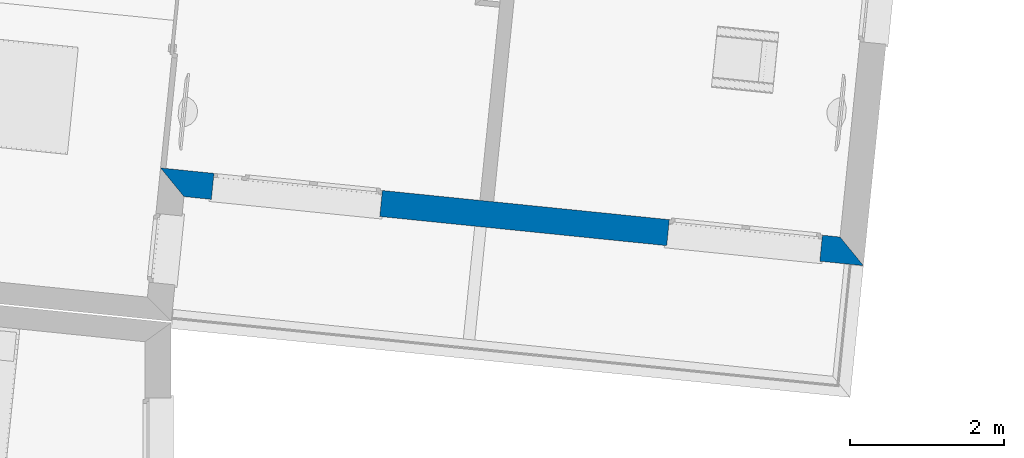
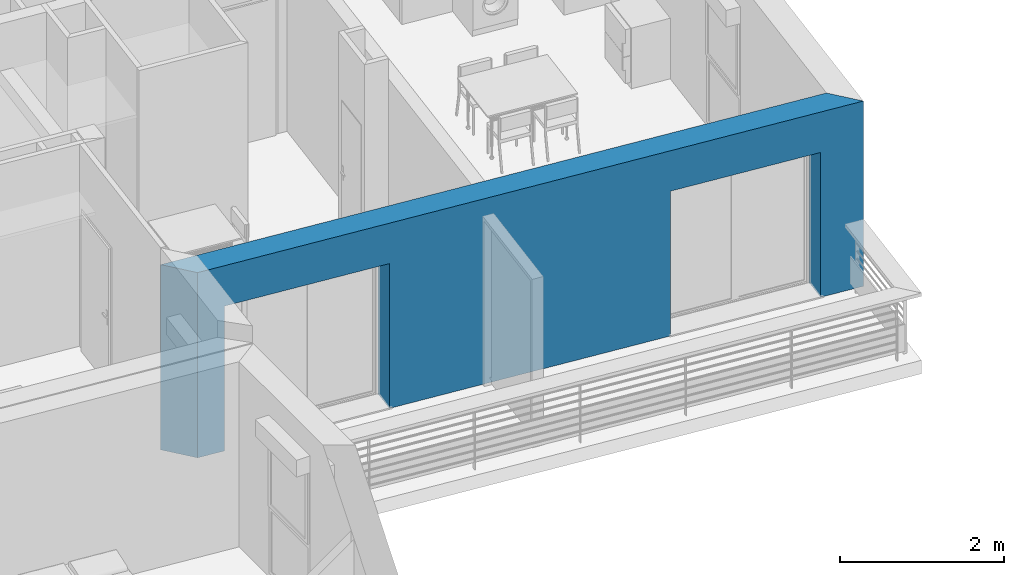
# One storey, part 53 of 164: 1 wall, 2 openings.
"""IFC2X3 building model written with IfcOpenShell, lengths in millimetres."""

from ifc_helpers import new_model, entity, si_unit, converted_unit, derived_unit, money_unit, direction, frame, origin_with_axes, place, context, subcontext, project, spatial, polyline, outline, extrude, faceted_brep, material, layer, layer_set, layer_usage, type_object, element, save


model = new_model("IFC2X3")

# Units and contexts
model_context = context("Model", 3, precision=0.01, world=origin_with_axes(), true_north=direction((0.0, 1.0)))
body_context = subcontext(model_context, "Body", "Model", "MODEL_VIEW")
ifc_project = project(units=[si_unit("LENGTHUNIT", "METRE", prefix="MILLI"), si_unit("AREAUNIT", "SQUARE_METRE"), si_unit("VOLUMEUNIT", "CUBIC_METRE"), converted_unit("PLANEANGLEUNIT", "DEGREE", entity("IfcPlaneAngleMeasure", 0.0174532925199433), si_unit("PLANEANGLEUNIT", "RADIAN"), dimensions=[0, 0, 0, 0, 0, 0, 0]), money_unit("USD"), converted_unit("TIMEUNIT", "Year", entity("IfcTimeMeasure", 31557600.0), si_unit("TIMEUNIT", "SECOND"), dimensions=[0, 0, 1, 0, 0, 0, 0]), si_unit("MASSUNIT", "GRAM", prefix="KILO"), si_unit("THERMODYNAMICTEMPERATUREUNIT", "DEGREE_CELSIUS"), si_unit("LUMINOUSINTENSITYUNIT", "LUMEN"), si_unit("ENERGYUNIT", "JOULE", prefix="MEGA"), derived_unit("THERMALCONDUCTANCEUNIT", [(si_unit("POWERUNIT", "WATT"), 1), (si_unit("LENGTHUNIT", "METRE"), -1), (si_unit("THERMODYNAMICTEMPERATUREUNIT", "KELVIN"), -1)]), derived_unit("SPECIFICHEATCAPACITYUNIT", [(si_unit("ENERGYUNIT", "JOULE"), 1), (si_unit("MASSUNIT", "GRAM", prefix="KILO"), -1), (si_unit("THERMODYNAMICTEMPERATUREUNIT", "KELVIN"), -1)]), derived_unit("MASSDENSITYUNIT", [(si_unit("MASSUNIT", "GRAM", prefix="KILO"), 1), (si_unit("VOLUMEUNIT", "CUBIC_METRE"), -1)])], contexts=[model_context])

# Site, building, storey
site_placement = place(None, origin_with_axes())
site = spatial("IfcSite", under=ifc_project, at=site_placement, Name="Site", CompositionType="ELEMENT")
building_placement = place(site_placement, origin_with_axes())
building = spatial("IfcBuilding", under=site, at=building_placement, Name="Bâtiment", CompositionType="ELEMENT")
storey_placement = place(building_placement, frame((0.0, 0.0, 5750.0), z_axis=(0.0, 0.0, 1.0), x_axis=(1.0, 0.0, 0.0)))
storey = spatial("IfcBuildingStorey", under=building, at=storey_placement, Name="Etage1", CompositionType="ELEMENT", Elevation=5750.0)

# Wall, openings
ifc_material_1 = material(Name="Parpaing 312445824")
ifc_layer_1 = layer(ifc_material_1, 180.0, ventilated="UNKNOWN")
ifc_material_2 = material(Name="Isolant styromousse 301821074")
ifc_layer_2 = layer(ifc_material_2, 160.0, ventilated="UNKNOWN")
ifc_layer_set = layer_set([ifc_layer_1, ifc_layer_2], Name="isol int 18+16 0018356637")
ifc_layer_usage = layer_usage(ifc_layer_set, "AXIS2", "POSITIVE", 0.0)
wall_type = type_object("IfcWallType", Name="isol int 18+16 0018356637 340", PredefinedType="NOTDEFINED")
wall_placement = place(storey_placement, frame((2229820.133205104, -620392.5899683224, 0.0), z_axis=(0.0, 0.0, 1.0), x_axis=(0.994875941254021, -0.1011032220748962, 0.0)))
wall = element("IfcWallStandardCase", 1, at=wall_placement, inside=storey, type_object=wall_type, material=ifc_layer_usage, Name="Mur-142", context=body_context, shape_type="SweptSolid", body=[
    extrude(outline(polyline([(0.0, 0.0), (8878.452480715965, 0.0), (8538.452480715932, 339.9999999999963), (-339.9999999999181, 339.9999999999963), (0.0, 0.0)])), origin_with_axes(), (0.0, 0.0, 1.0), 2750.0),
])
opening_1_placement = place(wall_placement, frame((1458.062560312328, 0.0, 0.0), z_axis=(0.0, 0.0, 1.0), x_axis=(1.0, 0.0, 0.0)))
element("IfcOpeningElement", 2, at=opening_1_placement, cuts=wall, Name="Fen-133", context=body_context, shape_type="Brep", body=[
    faceted_brep([(-1100.000000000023, 529.9999999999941, 2150.0), (1099.999999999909, 529.9999999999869, 2150.0), (1100.000000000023, 1234.040591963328, 2150.0), (-1099.999999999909, 1234.040591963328, 2150.0), (-1100.000000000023, 529.9999999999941, 2400.0), (1099.999999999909, 529.9999999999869, 2400.0), (1100.000000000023, 289.999999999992, 2150.0), (1100.000000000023, 289.999999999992, 0.0), (1100.000000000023, 1234.040591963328, 0.0), (-1099.999999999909, 1234.040591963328, 0.0), (-1100.000000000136, 289.9999999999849, 2150.0), (-1100.000000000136, 289.9999999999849, 0.0), (-1100.000000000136, 279.9999999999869, 2150.0), (-1100.000000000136, 279.9999999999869, 2400.0), (1100.000000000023, 279.999999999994, 2400.0), (1100.000000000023, 279.999999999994, 2150.0), (1099.999999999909, -894.0405919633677, 2150.0), (1099.999999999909, -894.0405919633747, 0.0), (-1100.000000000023, -894.0405919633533, 0.0), (-1100.000000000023, -894.0405919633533, 2150.0)], [[[0, 1, 2, 3]], [[1, 0, 4, 5]], [[1, 6, 7, 8, 2]], [[2, 8, 9, 3]], [[10, 0, 3, 9, 11]], [[0, 10, 12, 13, 4]], [[4, 13, 14, 5]], [[6, 1, 5, 14, 15]], [[6, 15, 16, 17, 7]], [[7, 17, 18, 11, 9, 8]], [[12, 10, 11, 18, 19]], [[12, 15, 14, 13]], [[15, 12, 19, 16]], [[19, 18, 17, 16]]]),
])
opening_2_placement = place(wall_placement, frame((7307.912898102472, 0.0, 0.0), z_axis=(0.0, 0.0, 1.0), x_axis=(1.0, 0.0, 0.0)))
element("IfcOpeningElement", 3, at=opening_2_placement, cuts=wall, Name="Fen-207", context=body_context, shape_type="Brep", body=[
    faceted_brep([(-1000.0, 529.9999999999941, 2150.0), (999.9999999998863, 529.9999999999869, 2150.0), (999.9999999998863, 1234.040591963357, 2150.0), (-1000.0, 1234.04059196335, 2150.0), (-1000.0, 529.9999999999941, 2400.0), (999.9999999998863, 529.9999999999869, 2400.0), (999.9999999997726, 289.999999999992, 2150.0), (999.9999999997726, 289.999999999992, 0.0), (999.9999999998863, 1234.040591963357, 0.0), (-1000.0, 1234.04059196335, 0.0), (-1000.000000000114, 289.9999999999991, 2150.0), (-1000.000000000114, 289.9999999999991, 0.0), (-1000.000000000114, 280.0000000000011, 2150.0), (-1000.000000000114, 280.0000000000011, 2400.0), (999.9999999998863, 279.999999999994, 2400.0), (999.9999999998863, 279.999999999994, 2150.0), (999.9999999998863, -894.0405919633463, 2150.0), (999.9999999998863, -894.0405919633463, 0.0), (-1000.000000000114, -894.0405919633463, 0.0), (-1000.000000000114, -894.0405919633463, 2150.0)], [[[0, 1, 2, 3]], [[1, 0, 4, 5]], [[1, 6, 7, 8, 2]], [[2, 8, 9, 3]], [[10, 0, 3, 9, 11]], [[0, 10, 12, 13, 4]], [[14, 5, 4, 13]], [[6, 1, 5, 14, 15]], [[6, 15, 16, 17, 7]], [[7, 17, 18, 11, 9, 8]], [[12, 10, 11, 18, 19]], [[12, 15, 14, 13]], [[15, 12, 19, 16]], [[19, 18, 17, 16]]]),
])

save(model, "model.ifc")
